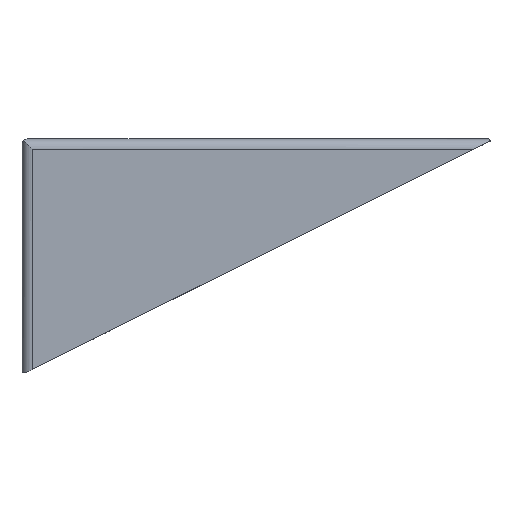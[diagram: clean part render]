
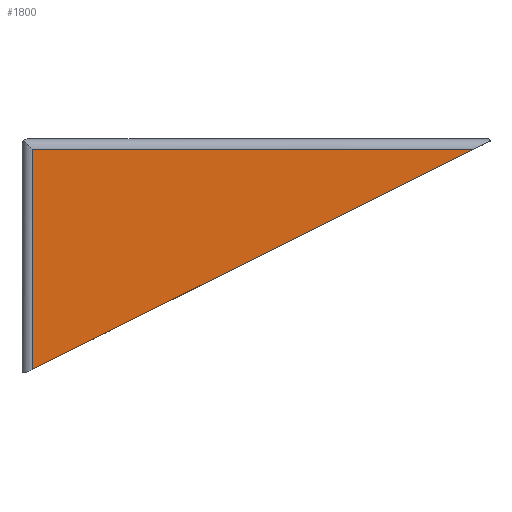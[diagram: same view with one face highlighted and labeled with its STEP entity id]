
A CAD part, left-side view. The second image highlights one B-rep face of the part: STEP entity #1800.
In plain terms, the highlighted planar face has unit normal (-1, 0, 0).
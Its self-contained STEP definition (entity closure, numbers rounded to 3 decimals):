
#23 = VECTOR ( 'NONE', #776, 1000. ) ;
#109 = CARTESIAN_POINT ( 'NONE',  ( -20., -3.5, -78.753 ) ) ;
#352 = LINE ( 'NONE', #2095, #2082 ) ;
#625 = VERTEX_POINT ( 'NONE', #109 ) ;
#697 = DIRECTION ( 'NONE',  ( 0., 0.895, -0.446 ) ) ;
#731 = VERTEX_POINT ( 'NONE', #1551 ) ;
#776 = DIRECTION ( 'NONE',  ( 0., 0., -1. ) ) ;
#813 = EDGE_LOOP ( 'NONE', ( #1689, #1694, #2443 ) ) ;
#976 = CARTESIAN_POINT ( 'NONE',  ( -20., -154.384, -3.5 ) ) ;
#1077 = LINE ( 'NONE', #1676, #1264 ) ;
#1163 = DIRECTION ( 'NONE',  ( 0., -1., 0. ) ) ;
#1182 = FACE_OUTER_BOUND ( 'NONE', #813, .T. ) ;
#1264 = VECTOR ( 'NONE', #697, 1000. ) ;
#1412 = DIRECTION ( 'NONE',  ( -1., 0., 0. ) ) ;
#1441 = VERTEX_POINT ( 'NONE', #976 ) ;
#1551 = CARTESIAN_POINT ( 'NONE',  ( -20., -3.5, -3.5 ) ) ;
#1676 = CARTESIAN_POINT ( 'NONE',  ( -20., -80.5, -40.35 ) ) ;
#1689 = ORIENTED_EDGE ( 'NONE', *, *, #2117, .T. ) ;
#1694 = ORIENTED_EDGE ( 'NONE', *, *, #2042, .F. ) ;
#1741 = LINE ( 'NONE', #2149, #23 ) ;
#1753 = DIRECTION ( 'NONE',  ( 0., 1., 0. ) ) ;
#1800 = ADVANCED_FACE ( 'NONE', ( #1182 ), #2380, .T. ) ;
#1801 = AXIS2_PLACEMENT_3D ( 'NONE', #2139, #1412, #1163 ) ;
#2042 = EDGE_CURVE ( 'NONE', #1441, #625, #1077, .T. ) ;
#2082 = VECTOR ( 'NONE', #1753, 1000. ) ;
#2095 = CARTESIAN_POINT ( 'NONE',  ( -20., -65.014, -3.5 ) ) ;
#2117 = EDGE_CURVE ( 'NONE', #731, #625, #1741, .T. ) ;
#2139 = CARTESIAN_POINT ( 'NONE',  ( -20., -65.014, -24.953 ) ) ;
#2149 = CARTESIAN_POINT ( 'NONE',  ( -20., -3.5, -80. ) ) ;
#2357 = EDGE_CURVE ( 'NONE', #1441, #731, #352, .T. ) ;
#2380 = PLANE ( 'NONE',  #1801 ) ;
#2443 = ORIENTED_EDGE ( 'NONE', *, *, #2357, .T. ) ;
